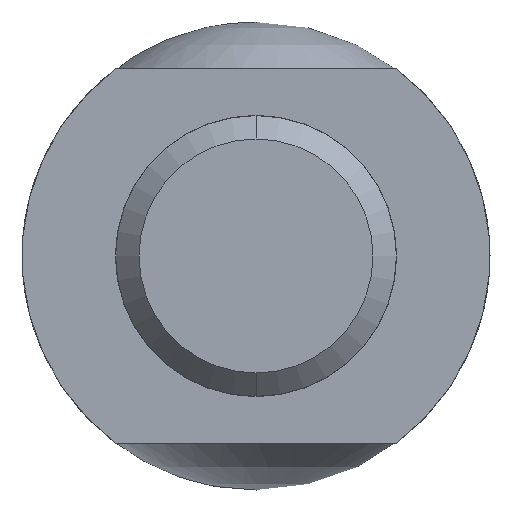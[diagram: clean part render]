
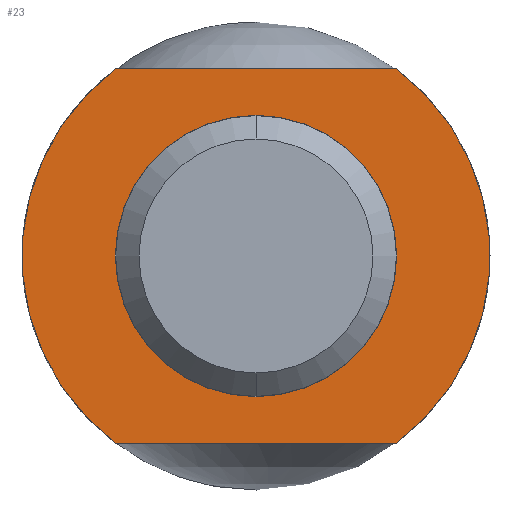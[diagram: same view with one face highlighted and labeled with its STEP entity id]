
A CAD part, front view. The second image highlights one B-rep face of the part: STEP entity #23.
In plain terms, the highlighted planar face has unit normal (0, -1, 0).
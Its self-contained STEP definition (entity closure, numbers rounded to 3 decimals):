
#7 = ORIENTED_EDGE ( 'NONE', *, *, #173, .T. ) ;
#8 = EDGE_CURVE ( 'NONE', #48, #57, #132, .T. ) ;
#10 = EDGE_CURVE ( 'NONE', #56, #49, #128, .T. ) ;
#16 = ORIENTED_EDGE ( 'NONE', *, *, #44, .F. ) ;
#18 = ORIENTED_EDGE ( 'NONE', *, *, #10, .T. ) ;
#19 = EDGE_CURVE ( 'NONE', #171, #174, #115, .T. ) ;
#20 = ORIENTED_EDGE ( 'NONE', *, *, #39, .F. ) ;
#21 = ORIENTED_EDGE ( 'NONE', *, *, #8, .T. ) ;
#22 = EDGE_LOOP ( 'NONE', ( #21, #20, #18, #16 ) ) ;
#23 = ADVANCED_FACE ( 'NONE', ( #116, #111 ), #110, .F. ) ;
#24 = ORIENTED_EDGE ( 'NONE', *, *, #19, .T. ) ;
#37 = EDGE_LOOP ( 'NONE', ( #7, #24 ) ) ;
#39 = EDGE_CURVE ( 'NONE', #56, #57, #279, .T. ) ;
#44 = EDGE_CURVE ( 'NONE', #48, #49, #95, .T. ) ;
#48 = VERTEX_POINT ( 'NONE', #85 ) ;
#49 = VERTEX_POINT ( 'NONE', #84 ) ;
#56 = VERTEX_POINT ( 'NONE', #73 ) ;
#57 = VERTEX_POINT ( 'NONE', #72 ) ;
#72 = CARTESIAN_POINT ( 'NONE',  ( 3., 0., -4. ) ) ;
#73 = CARTESIAN_POINT ( 'NONE',  ( 3., 0., 4. ) ) ;
#84 = CARTESIAN_POINT ( 'NONE',  ( -3., 0., 4. ) ) ;
#85 = CARTESIAN_POINT ( 'NONE',  ( -3., 0., -4. ) ) ;
#91 = DIRECTION ( 'NONE',  ( 0., 0., 1. ) ) ;
#92 = DIRECTION ( 'NONE',  ( 0., 1., 0. ) ) ;
#93 = CARTESIAN_POINT ( 'NONE',  ( 0., 0., 0. ) ) ;
#94 = AXIS2_PLACEMENT_3D ( 'NONE', #93, #92, #91 ) ;
#95 = CIRCLE ( 'NONE', #94, 5. ) ;
#106 = DIRECTION ( 'NONE',  ( 0., 0., 1. ) ) ;
#107 = DIRECTION ( 'NONE',  ( 0., 1., 0. ) ) ;
#108 = CARTESIAN_POINT ( 'NONE',  ( 0., 0., 0. ) ) ;
#109 = AXIS2_PLACEMENT_3D ( 'NONE', #108, #107, #106 ) ;
#110 = PLANE ( 'NONE',  #109 ) ;
#111 = FACE_OUTER_BOUND ( 'NONE', #22, .T. ) ;
#112 = DIRECTION ( 'NONE',  ( 0., 0., 1. ) ) ;
#113 = DIRECTION ( 'NONE',  ( 0., 1., 0. ) ) ;
#114 = AXIS2_PLACEMENT_3D ( 'NONE', #122, #113, #112 ) ;
#115 = CIRCLE ( 'NONE', #114, 3.005 ) ;
#116 = FACE_BOUND ( 'NONE', #37, .T. ) ;
#122 = CARTESIAN_POINT ( 'NONE',  ( 0., 0., 0. ) ) ;
#125 = DIRECTION ( 'NONE',  ( -1., 0., 0. ) ) ;
#126 = VECTOR ( 'NONE', #125, 1000. ) ;
#127 = CARTESIAN_POINT ( 'NONE',  ( -5., 0., 4. ) ) ;
#128 = LINE ( 'NONE', #127, #126 ) ;
#129 = DIRECTION ( 'NONE',  ( 1., 0., 0. ) ) ;
#130 = VECTOR ( 'NONE', #129, 1000. ) ;
#131 = CARTESIAN_POINT ( 'NONE',  ( -5., 0., -4. ) ) ;
#132 = LINE ( 'NONE', #131, #130 ) ;
#171 = VERTEX_POINT ( 'NONE', #379 ) ;
#173 = EDGE_CURVE ( 'NONE', #174, #171, #378, .T. ) ;
#174 = VERTEX_POINT ( 'NONE', #373 ) ;
#271 = DIRECTION ( 'NONE',  ( 0., 0., 1. ) ) ;
#272 = DIRECTION ( 'NONE',  ( 0., 1., 0. ) ) ;
#273 = CARTESIAN_POINT ( 'NONE',  ( 0., 0., 0. ) ) ;
#274 = AXIS2_PLACEMENT_3D ( 'NONE', #273, #272, #271 ) ;
#279 = CIRCLE ( 'NONE', #274, 5. ) ;
#373 = CARTESIAN_POINT ( 'NONE',  ( 0., 0., 3.005 ) ) ;
#374 = DIRECTION ( 'NONE',  ( 0., 0., 1. ) ) ;
#375 = DIRECTION ( 'NONE',  ( 0., 1., 0. ) ) ;
#376 = CARTESIAN_POINT ( 'NONE',  ( 0., 0., 0. ) ) ;
#377 = AXIS2_PLACEMENT_3D ( 'NONE', #376, #375, #374 ) ;
#378 = CIRCLE ( 'NONE', #377, 3.005 ) ;
#379 = CARTESIAN_POINT ( 'NONE',  ( 0., 0., -3.005 ) ) ;
